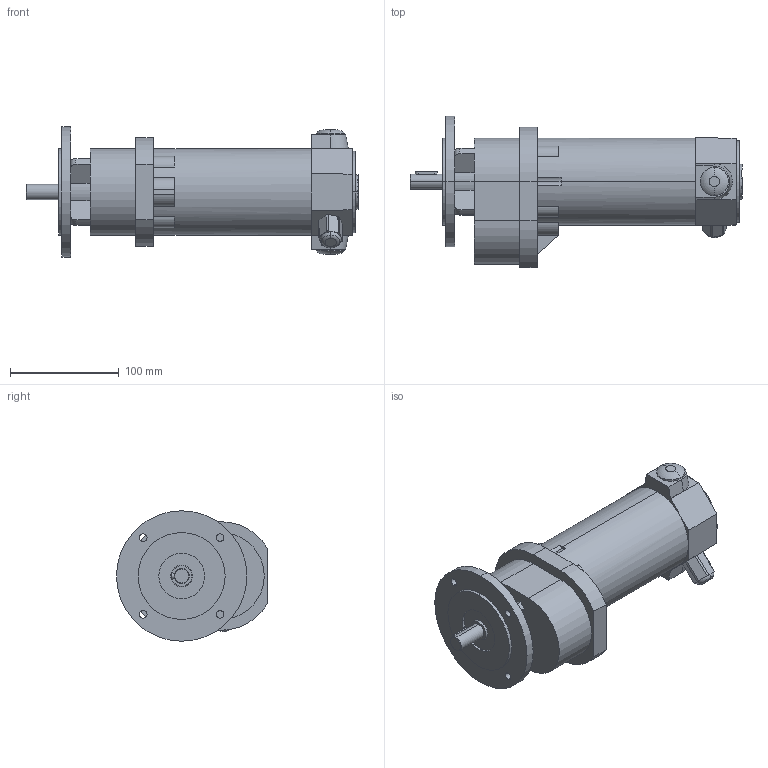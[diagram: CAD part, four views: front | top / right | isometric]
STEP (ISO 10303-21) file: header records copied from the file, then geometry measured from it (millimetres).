
FILE_DESCRIPTION(('OneSpaceDesigner STEP Export'),'2;1');
FILE_NAME('EPG13_SF30.stp','2008-07-17T10:21:33',(''),(''),'OneSpace Designer STEP processor (Jan. 2003) for AP214(CD)(Solid Model)','OneSpace Designer 12.01D 09-Jul-2004 (C) CoCreate Software GmbH','');
FILE_SCHEMA(('AUTOMOTIVE_DESIGN_CC2 {1 2 10303 214 -1 1 5 1}'));
Length unit declared in the file: millimetre
Products named in the file (2): EPG13_SF30
Assembly tree (1 placements, depth 2):
  EPG13_SF30
    EPG13_SF30
Bounding box: 305.5 x 139 x 120 mm (x, y, z)
Volume: 1648999.3 mm3; surface area: 123838.7 mm2
Topology: 1 solids, 1 shells, 141 faces, 363 edges, 239 vertices
Faces by surface type: plane 64, cylinder 59, torus 12, cone 4, bspline 2
Entity records: 7063 total; most frequent: CARTESIAN_POINT 3801, ORIENTED_EDGE 726, DIRECTION 602, EDGE_CURVE 363, VERTEX_POINT 239, AXIS2_PLACEMENT_3D 211, VECTOR 180, LINE 180
